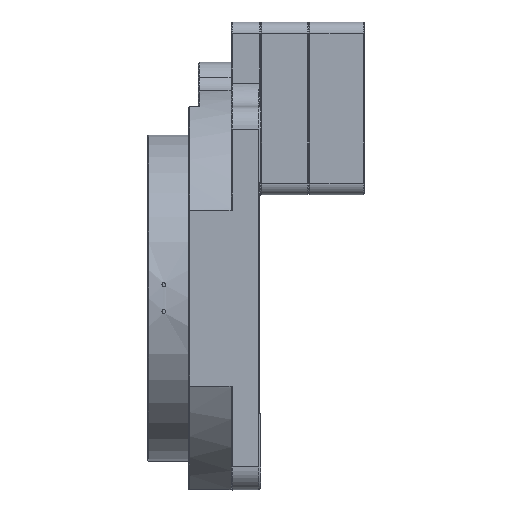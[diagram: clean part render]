
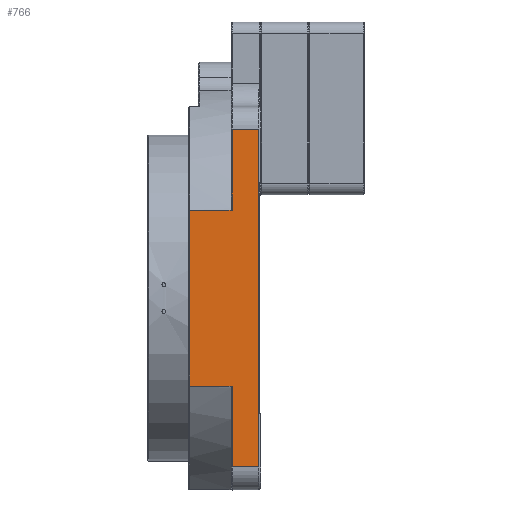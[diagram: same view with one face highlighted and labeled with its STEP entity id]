
A CAD part, left-side view. The second image highlights one B-rep face of the part: STEP entity #766.
In plain terms, the highlighted planar face has unit normal (1, 0, 0).
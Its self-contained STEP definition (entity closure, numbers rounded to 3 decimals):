
#102 = CARTESIAN_POINT ( 'NONE',  ( -100., 0., -45.826 ) ) ;
#177 = LINE ( 'NONE', #11572, #3167 ) ;
#339 = VECTOR ( 'NONE', #2443, 1000. ) ;
#376 = CARTESIAN_POINT ( 'NONE',  ( -100., 14.5, -88. ) ) ;
#423 = VECTOR ( 'NONE', #13734, 1000. ) ;
#431 = VERTEX_POINT ( 'NONE', #376 ) ;
#766 = ADVANCED_FACE ( 'NONE', ( #6196 ), #6290, .F. ) ;
#1082 = VERTEX_POINT ( 'NONE', #9431 ) ;
#1571 = DIRECTION ( 'NONE',  ( 0., -1., 0. ) ) ;
#2443 = DIRECTION ( 'NONE',  ( 0., -1., 0. ) ) ;
#2555 = ORIENTED_EDGE ( 'NONE', *, *, #6504, .F. ) ;
#2629 = EDGE_CURVE ( 'NONE', #18454, #6000, #11718, .T. ) ;
#3167 = VECTOR ( 'NONE', #14420, 1000. ) ;
#3260 = VERTEX_POINT ( 'NONE', #5736 ) ;
#3518 = VECTOR ( 'NONE', #17661, 1000. ) ;
#4683 = VECTOR ( 'NONE', #6672, 1000. ) ;
#5046 = CARTESIAN_POINT ( 'NONE',  ( -100., 14.5, -100. ) ) ;
#5215 = CARTESIAN_POINT ( 'NONE',  ( -100., 0.5, 74. ) ) ;
#5548 = CARTESIAN_POINT ( 'NONE',  ( -100., 0., -100. ) ) ;
#5597 = DIRECTION ( 'NONE',  ( -1., 0., 0. ) ) ;
#5620 = DIRECTION ( 'NONE',  ( 0., 0., 1. ) ) ;
#5736 = CARTESIAN_POINT ( 'NONE',  ( -100., 36.5, 45.826 ) ) ;
#5826 = VECTOR ( 'NONE', #9764, 1000. ) ;
#6000 = VERTEX_POINT ( 'NONE', #15765 ) ;
#6071 = CARTESIAN_POINT ( 'NONE',  ( -100., 36.5, -100. ) ) ;
#6196 = FACE_OUTER_BOUND ( 'NONE', #13397, .T. ) ;
#6290 = PLANE ( 'NONE',  #9390 ) ;
#6504 = EDGE_CURVE ( 'NONE', #1082, #8272, #11516, .T. ) ;
#6672 = DIRECTION ( 'NONE',  ( 0., 0., -1. ) ) ;
#6808 = EDGE_CURVE ( 'NONE', #18454, #11820, #12379, .T. ) ;
#7651 = ORIENTED_EDGE ( 'NONE', *, *, #18695, .F. ) ;
#7772 = ORIENTED_EDGE ( 'NONE', *, *, #2629, .F. ) ;
#7838 = EDGE_CURVE ( 'NONE', #18043, #3260, #9640, .T. ) ;
#8074 = LINE ( 'NONE', #14131, #339 ) ;
#8272 = VERTEX_POINT ( 'NONE', #12300 ) ;
#8912 = CARTESIAN_POINT ( 'NONE',  ( -100., 0.5, 88. ) ) ;
#9390 = AXIS2_PLACEMENT_3D ( 'NONE', #5548, #5597, #5620 ) ;
#9431 = CARTESIAN_POINT ( 'NONE',  ( -100., 36.5, -45.826 ) ) ;
#9640 = LINE ( 'NONE', #12644, #5826 ) ;
#9764 = DIRECTION ( 'NONE',  ( 0., 1., 0. ) ) ;
#9777 = CARTESIAN_POINT ( 'NONE',  ( -100., 0., 88. ) ) ;
#9935 = ORIENTED_EDGE ( 'NONE', *, *, #10548, .F. ) ;
#10548 = EDGE_CURVE ( 'NONE', #8272, #431, #177, .T. ) ;
#10583 = VECTOR ( 'NONE', #1571, 1000. ) ;
#11516 = LINE ( 'NONE', #102, #10583 ) ;
#11572 = CARTESIAN_POINT ( 'NONE',  ( -100., 14.5, -100. ) ) ;
#11718 = LINE ( 'NONE', #9777, #18508 ) ;
#11820 = VERTEX_POINT ( 'NONE', #16848 ) ;
#12300 = CARTESIAN_POINT ( 'NONE',  ( -100., 14.5, -45.826 ) ) ;
#12379 = LINE ( 'NONE', #5215, #4683 ) ;
#12644 = CARTESIAN_POINT ( 'NONE',  ( -100., 0., 45.826 ) ) ;
#13324 = ORIENTED_EDGE ( 'NONE', *, *, #6808, .T. ) ;
#13397 = EDGE_LOOP ( 'NONE', ( #9935, #2555, #18810, #17926, #7651, #7772, #13324, #18352 ) ) ;
#13734 = DIRECTION ( 'NONE',  ( 0., 0., -1. ) ) ;
#14131 = CARTESIAN_POINT ( 'NONE',  ( -100., 0., -88. ) ) ;
#14196 = EDGE_CURVE ( 'NONE', #431, #11820, #8074, .T. ) ;
#14420 = DIRECTION ( 'NONE',  ( 0., 0., -1. ) ) ;
#14640 = LINE ( 'NONE', #6071, #3518 ) ;
#15131 = EDGE_CURVE ( 'NONE', #3260, #1082, #14640, .T. ) ;
#15582 = DIRECTION ( 'NONE',  ( 0., 1., 0. ) ) ;
#15765 = CARTESIAN_POINT ( 'NONE',  ( -100., 14.5, 88. ) ) ;
#15914 = LINE ( 'NONE', #5046, #423 ) ;
#16848 = CARTESIAN_POINT ( 'NONE',  ( -100., 0.5, -88. ) ) ;
#17661 = DIRECTION ( 'NONE',  ( 0., 0., -1. ) ) ;
#17926 = ORIENTED_EDGE ( 'NONE', *, *, #7838, .F. ) ;
#18043 = VERTEX_POINT ( 'NONE', #18069 ) ;
#18069 = CARTESIAN_POINT ( 'NONE',  ( -100., 14.5, 45.826 ) ) ;
#18352 = ORIENTED_EDGE ( 'NONE', *, *, #14196, .F. ) ;
#18454 = VERTEX_POINT ( 'NONE', #8912 ) ;
#18508 = VECTOR ( 'NONE', #15582, 1000. ) ;
#18695 = EDGE_CURVE ( 'NONE', #6000, #18043, #15914, .T. ) ;
#18810 = ORIENTED_EDGE ( 'NONE', *, *, #15131, .F. ) ;
